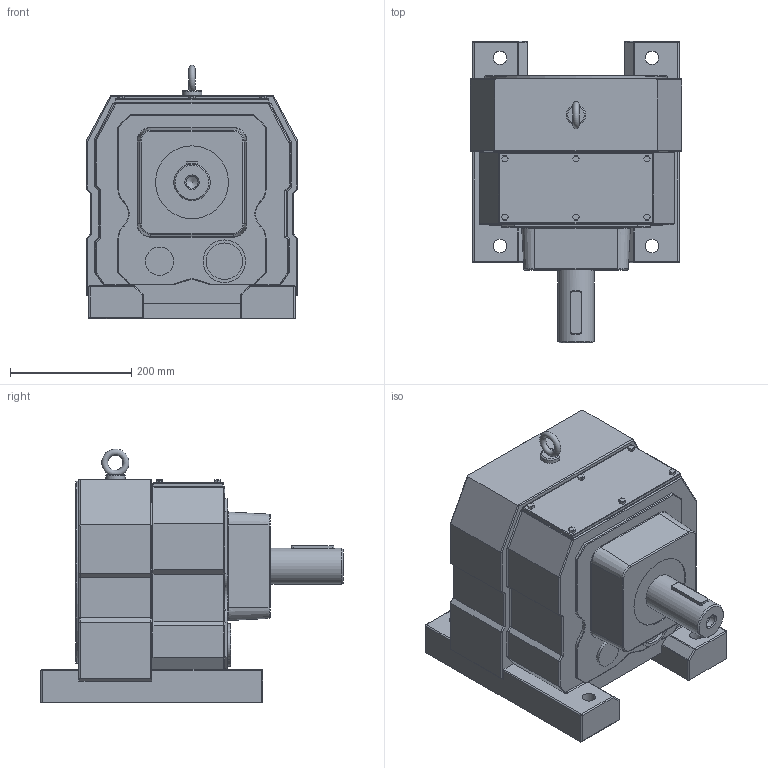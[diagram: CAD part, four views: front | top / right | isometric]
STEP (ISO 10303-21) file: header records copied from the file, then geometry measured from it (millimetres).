
FILE_DESCRIPTION((''),'2;1');
FILE_NAME('D:\PAWEŁ\ZLECENIA\2011 DualSystem\Przekładnie DR\DR90\STEP\DR90.stp','2012-06-11T12:19:14',('admin'),(''),'Autodesk Inventor 2009','Autodesk Inventor 2009','');
FILE_SCHEMA(('AUTOMOTIVE_DESIGN { 1 0 10303 214 1 1 1 1 }'));
Length unit declared in the file: millimetre
Products named in the file (1): DR90
Bounding box: 348 x 497.5 x 417.97 mm (x, y, z)
Volume: 32107583.1 mm3; surface area: 814738.5 mm2
Topology: 2 solids, 2 shells, 470 faces, 1106 edges, 608 vertices
Faces by surface type: cylinder 226, plane 143, sphere 56, bspline 20, torus 19, cone 6
Full cylindrical faces by diameter (mm): 22 x4, 27 x4, 32 x1, 46.667 x1, 60 x2, 70 x1, 120 x1, 220 x1, 300 x1
Entity records: 14442 total; most frequent: CARTESIAN_POINT 3711, DIRECTION 2351, ORIENTED_EDGE 2048, EDGE_CURVE 1024, AXIS2_PLACEMENT_3D 893, VERTEX_POINT 604, VECTOR 565, LINE 565
